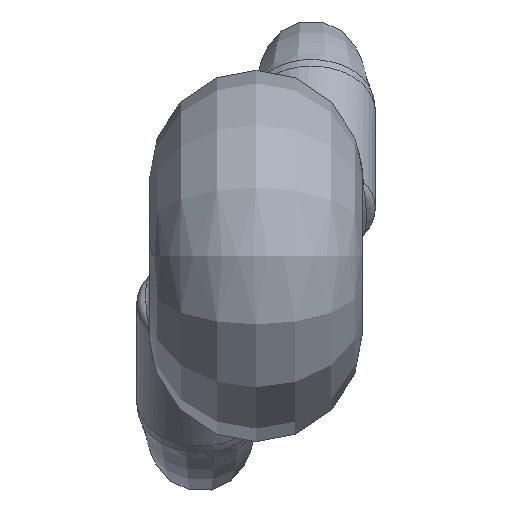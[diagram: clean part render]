
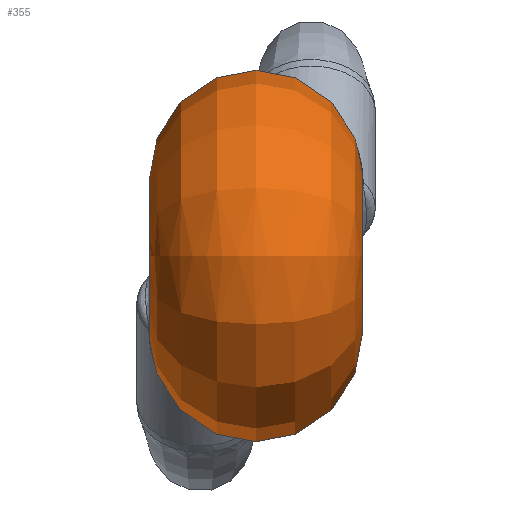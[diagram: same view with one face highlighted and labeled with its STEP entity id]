
A CAD part, left-side view. The second image highlights one B-rep face of the part: STEP entity #355.
In plain terms, the highlighted free-form (B-spline) face has degree [2, 2] with [5, 9] control points.
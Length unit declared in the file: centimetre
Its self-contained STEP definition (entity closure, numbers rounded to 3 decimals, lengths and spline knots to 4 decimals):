
#16=(
BOUNDED_CURVE()
B_SPLINE_CURVE(2,(#1300,#1301,#1302,#1303,#1304),.UNSPECIFIED.,.F.,.F.)
B_SPLINE_CURVE_WITH_KNOTS((3,2,3),(-1.5708,0.,
1.5708),.UNSPECIFIED.)
CURVE()
GEOMETRIC_REPRESENTATION_ITEM()
RATIONAL_B_SPLINE_CURVE((1.,0.707,1.,0.707,1.))
REPRESENTATION_ITEM('')
);
#17=(
BOUNDED_SURFACE()
B_SPLINE_SURFACE(2,2,((#1252,#1253,#1254,#1255,#1256,#1257,#1258,#1259,
#1260),(#1261,#1262,#1263,#1264,#1265,#1266,#1267,#1268,#1269),(#1270,#1271,
#1272,#1273,#1274,#1275,#1276,#1277,#1278),(#1279,#1280,#1281,#1282,#1283,
#1284,#1285,#1286,#1287),(#1288,#1289,#1290,#1291,#1292,#1293,#1294,#1295,
#1296)),.UNSPECIFIED.,.F.,.T.,.F.)
B_SPLINE_SURFACE_WITH_KNOTS((3,2,3),(3,2,2,2,3),(-1.5708,0.,
1.5708),(-3.1416,-1.5708,0.,1.5708,
3.1416),.UNSPECIFIED.)
GEOMETRIC_REPRESENTATION_ITEM()
RATIONAL_B_SPLINE_SURFACE(((1.,0.707,1.,0.707,1.,
0.707,1.,0.707,1.),(0.707,0.5,0.707,
0.5,0.707,0.5,0.707,0.5,0.707),(1.,
0.707,1.,0.707,1.,0.707,1.,0.707,
1.),(0.707,0.5,0.707,0.5,0.707,0.5,
0.707,0.5,0.707),(1.,0.707,1.,0.707,
1.,0.707,1.,0.707,1.)))
REPRESENTATION_ITEM('')
SURFACE()
);
#50=B_SPLINE_CURVE_WITH_KNOTS('',3,(#1136,#1137,#1138,#1139,#1140,#1141,
#1142,#1143,#1144,#1145,#1146,#1147,#1148,#1149,#1150,#1151),
 .UNSPECIFIED.,.F.,.F.,(4,1,1,1,1,1,1,1,1,1,1,1,1,4),(-0.8755,
-0.8129,-0.7504,-0.6566,-0.6253,
-0.5628,-0.5003,-0.4377,-0.3752,
-0.297,-0.2501,-0.1251,-0.0625,
0.),.UNSPECIFIED.);
#53=B_SPLINE_CURVE_WITH_KNOTS('',3,(#1308,#1309,#1310,#1311,#1312,#1313,
#1314,#1315,#1316,#1317,#1318,#1319,#1320,#1321,#1322,#1323),
 .UNSPECIFIED.,.F.,.F.,(4,1,1,1,1,1,1,1,1,1,1,1,1,4),(-0.8755,
-0.8129,-0.7504,-0.6879,-0.6253,
-0.5628,-0.5003,-0.4377,-0.3752,
-0.297,-0.2501,-0.1251,-0.0625,
0.),.UNSPECIFIED.);
#82=FACE_OUTER_BOUND('',#111,.T.);
#111=EDGE_LOOP('',(#267,#268,#269,#270,#271,#272,#273,#274));
#138=CIRCLE('',#388,0.15);
#139=CIRCLE('',#389,0.15);
#140=CIRCLE('',#390,0.15);
#141=CIRCLE('',#391,0.15);
#164=VERTEX_POINT('',#1133);
#165=VERTEX_POINT('',#1135);
#168=VERTEX_POINT('',#1297);
#169=VERTEX_POINT('',#1299);
#170=VERTEX_POINT('',#1305);
#171=VERTEX_POINT('',#1307);
#197=EDGE_CURVE('',#164,#165,#50,.T.);
#205=EDGE_CURVE('',#164,#168,#138,.T.);
#206=EDGE_CURVE('',#168,#169,#16,.T.);
#207=EDGE_CURVE('',#169,#170,#139,.T.);
#208=EDGE_CURVE('',#171,#170,#53,.T.);
#209=EDGE_CURVE('',#171,#169,#140,.T.);
#210=EDGE_CURVE('',#168,#165,#141,.T.);
#267=ORIENTED_EDGE('',*,*,#197,.F.);
#268=ORIENTED_EDGE('',*,*,#205,.T.);
#269=ORIENTED_EDGE('',*,*,#206,.T.);
#270=ORIENTED_EDGE('',*,*,#207,.T.);
#271=ORIENTED_EDGE('',*,*,#208,.F.);
#272=ORIENTED_EDGE('',*,*,#209,.T.);
#273=ORIENTED_EDGE('',*,*,#206,.F.);
#274=ORIENTED_EDGE('',*,*,#210,.T.);
#355=ADVANCED_FACE('',(#82),#17,.F.);
#388=AXIS2_PLACEMENT_3D('',#1298,#452,#453);
#389=AXIS2_PLACEMENT_3D('',#1306,#454,#455);
#390=AXIS2_PLACEMENT_3D('',#1324,#456,#457);
#391=AXIS2_PLACEMENT_3D('',#1325,#458,#459);
#452=DIRECTION('center_axis',(0.,-1.,0.));
#453=DIRECTION('ref_axis',(-1.,0.,0.));
#454=DIRECTION('center_axis',(0.,1.,0.));
#455=DIRECTION('ref_axis',(-1.,0.,0.));
#456=DIRECTION('center_axis',(0.,1.,0.));
#457=DIRECTION('ref_axis',(-1.,0.,0.));
#458=DIRECTION('center_axis',(0.,-1.,0.));
#459=DIRECTION('ref_axis',(-1.,0.,0.));
#1133=CARTESIAN_POINT('',(0.1432,0.275,-0.0448));
#1135=CARTESIAN_POINT('',(0.0288,0.275,-0.1472));
#1136=CARTESIAN_POINT('Ctrl Pts',(0.1432,0.275,-0.0448));
#1137=CARTESIAN_POINT('Ctrl Pts',(0.1571,0.275,-0.0592));
#1138=CARTESIAN_POINT('Ctrl Pts',(0.1906,0.2697,-0.0817));
#1139=CARTESIAN_POINT('Ctrl Pts',(0.2511,0.2402,-0.102));
#1140=CARTESIAN_POINT('Ctrl Pts',(0.2904,0.1958,-0.1179));
#1141=CARTESIAN_POINT('Ctrl Pts',(0.3086,0.1437,-0.1419));
#1142=CARTESIAN_POINT('Ctrl Pts',(0.3083,0.0997,
-0.1679));
#1143=CARTESIAN_POINT('Ctrl Pts',(0.2828,0.0601,
-0.2087));
#1144=CARTESIAN_POINT('Ctrl Pts',(0.2411,0.0463,
-0.2533));
#1145=CARTESIAN_POINT('Ctrl Pts',(0.191,0.063,-0.2961));
#1146=CARTESIAN_POINT('Ctrl Pts',(0.1504,0.1063,-0.3164));
#1147=CARTESIAN_POINT('Ctrl Pts',(0.1101,0.1766,-0.31));
#1148=CARTESIAN_POINT('Ctrl Pts',(0.0901,0.2375,-0.2638));
#1149=CARTESIAN_POINT('Ctrl Pts',(0.0667,0.2702,
-0.1942));
#1150=CARTESIAN_POINT('Ctrl Pts',(0.0434,0.275,
-0.1611));
#1151=CARTESIAN_POINT('Ctrl Pts',(0.0288,0.275,-0.1472));
#1252=CARTESIAN_POINT('Ctrl Pts',(-0.15,-0.125,0.));
#1253=CARTESIAN_POINT('Ctrl Pts',(-0.15,-0.125,0.15));
#1254=CARTESIAN_POINT('Ctrl Pts',(0.,-0.125,0.15));
#1255=CARTESIAN_POINT('Ctrl Pts',(0.15,-0.125,0.15));
#1256=CARTESIAN_POINT('Ctrl Pts',(0.15,-0.125,0.));
#1257=CARTESIAN_POINT('Ctrl Pts',(0.15,-0.125,-0.15));
#1258=CARTESIAN_POINT('Ctrl Pts',(0.,-0.125,-0.15));
#1259=CARTESIAN_POINT('Ctrl Pts',(-0.15,-0.125,-0.15));
#1260=CARTESIAN_POINT('Ctrl Pts',(-0.15,-0.125,0.));
#1261=CARTESIAN_POINT('Ctrl Pts',(-0.35,-0.125,0.));
#1262=CARTESIAN_POINT('Ctrl Pts',(-0.35,-0.125,0.35));
#1263=CARTESIAN_POINT('Ctrl Pts',(0.,-0.125,0.35));
#1264=CARTESIAN_POINT('Ctrl Pts',(0.35,-0.125,0.35));
#1265=CARTESIAN_POINT('Ctrl Pts',(0.35,-0.125,0.));
#1266=CARTESIAN_POINT('Ctrl Pts',(0.35,-0.125,-0.35));
#1267=CARTESIAN_POINT('Ctrl Pts',(0.,-0.125,-0.35));
#1268=CARTESIAN_POINT('Ctrl Pts',(-0.35,-0.125,-0.35));
#1269=CARTESIAN_POINT('Ctrl Pts',(-0.35,-0.125,0.));
#1270=CARTESIAN_POINT('Ctrl Pts',(-0.35,0.075,0.));
#1271=CARTESIAN_POINT('Ctrl Pts',(-0.35,0.075,0.35));
#1272=CARTESIAN_POINT('Ctrl Pts',(0.,0.075,0.35));
#1273=CARTESIAN_POINT('Ctrl Pts',(0.35,0.075,0.35));
#1274=CARTESIAN_POINT('Ctrl Pts',(0.35,0.075,0.));
#1275=CARTESIAN_POINT('Ctrl Pts',(0.35,0.075,-0.35));
#1276=CARTESIAN_POINT('Ctrl Pts',(0.,0.075,-0.35));
#1277=CARTESIAN_POINT('Ctrl Pts',(-0.35,0.075,-0.35));
#1278=CARTESIAN_POINT('Ctrl Pts',(-0.35,0.075,0.));
#1279=CARTESIAN_POINT('Ctrl Pts',(-0.35,0.275,0.));
#1280=CARTESIAN_POINT('Ctrl Pts',(-0.35,0.275,0.35));
#1281=CARTESIAN_POINT('Ctrl Pts',(0.,0.275,0.35));
#1282=CARTESIAN_POINT('Ctrl Pts',(0.35,0.275,0.35));
#1283=CARTESIAN_POINT('Ctrl Pts',(0.35,0.275,0.));
#1284=CARTESIAN_POINT('Ctrl Pts',(0.35,0.275,-0.35));
#1285=CARTESIAN_POINT('Ctrl Pts',(0.,0.275,-0.35));
#1286=CARTESIAN_POINT('Ctrl Pts',(-0.35,0.275,-0.35));
#1287=CARTESIAN_POINT('Ctrl Pts',(-0.35,0.275,0.));
#1288=CARTESIAN_POINT('Ctrl Pts',(-0.15,0.275,0.));
#1289=CARTESIAN_POINT('Ctrl Pts',(-0.15,0.275,0.15));
#1290=CARTESIAN_POINT('Ctrl Pts',(0.,0.275,0.15));
#1291=CARTESIAN_POINT('Ctrl Pts',(0.15,0.275,0.15));
#1292=CARTESIAN_POINT('Ctrl Pts',(0.15,0.275,0.));
#1293=CARTESIAN_POINT('Ctrl Pts',(0.15,0.275,-0.15));
#1294=CARTESIAN_POINT('Ctrl Pts',(0.,0.275,-0.15));
#1295=CARTESIAN_POINT('Ctrl Pts',(-0.15,0.275,-0.15));
#1296=CARTESIAN_POINT('Ctrl Pts',(-0.15,0.275,0.));
#1297=CARTESIAN_POINT('',(-0.15,0.275,0.));
#1298=CARTESIAN_POINT('Origin',(0.,0.275,0.));
#1299=CARTESIAN_POINT('',(-0.15,-0.125,0.));
#1300=CARTESIAN_POINT('Ctrl Pts',(-0.15,0.275,0.));
#1301=CARTESIAN_POINT('Ctrl Pts',(-0.35,0.275,0.));
#1302=CARTESIAN_POINT('Ctrl Pts',(-0.35,0.075,0.));
#1303=CARTESIAN_POINT('Ctrl Pts',(-0.35,-0.125,0.));
#1304=CARTESIAN_POINT('Ctrl Pts',(-0.15,-0.125,0.));
#1305=CARTESIAN_POINT('',(0.0288,-0.125,0.1472));
#1306=CARTESIAN_POINT('Origin',(0.,-0.125,0.));
#1307=CARTESIAN_POINT('',(0.1432,-0.125,0.0448));
#1308=CARTESIAN_POINT('Ctrl Pts',(0.1432,-0.125,0.0448));
#1309=CARTESIAN_POINT('Ctrl Pts',(0.1571,-0.125,0.0592));
#1310=CARTESIAN_POINT('Ctrl Pts',(0.1906,-0.1197,
0.0816));
#1311=CARTESIAN_POINT('Ctrl Pts',(0.2425,-0.0943,
0.0991));
#1312=CARTESIAN_POINT('Ctrl Pts',(0.2843,-0.054,
0.1153));
#1313=CARTESIAN_POINT('Ctrl Pts',(0.3086,-0.0026,
0.1366));
#1314=CARTESIAN_POINT('Ctrl Pts',(0.3083,0.0503,0.168));
#1315=CARTESIAN_POINT('Ctrl Pts',(0.2829,0.0898,
0.2087));
#1316=CARTESIAN_POINT('Ctrl Pts',(0.2411,0.1037,0.2533));
#1317=CARTESIAN_POINT('Ctrl Pts',(0.191,0.087,
0.2961));
#1318=CARTESIAN_POINT('Ctrl Pts',(0.1504,0.0437,
0.3164));
#1319=CARTESIAN_POINT('Ctrl Pts',(0.1101,-0.0266,
0.31));
#1320=CARTESIAN_POINT('Ctrl Pts',(0.0901,-0.0875,
0.2638));
#1321=CARTESIAN_POINT('Ctrl Pts',(0.0668,-0.1202,
0.1942));
#1322=CARTESIAN_POINT('Ctrl Pts',(0.0434,-0.125,
0.1611));
#1323=CARTESIAN_POINT('Ctrl Pts',(0.0288,-0.125,0.1472));
#1324=CARTESIAN_POINT('Origin',(0.,-0.125,0.));
#1325=CARTESIAN_POINT('Origin',(0.,0.275,0.));
